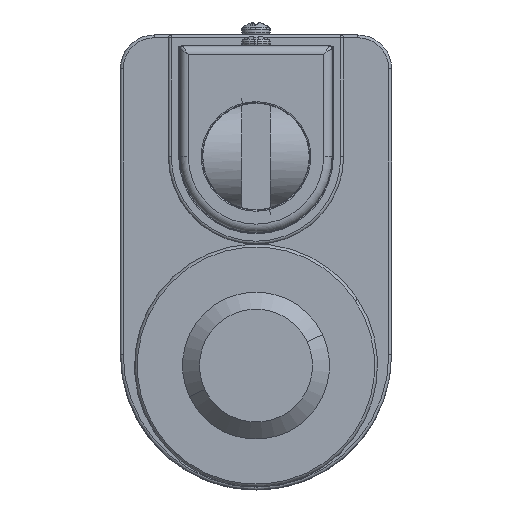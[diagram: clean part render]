
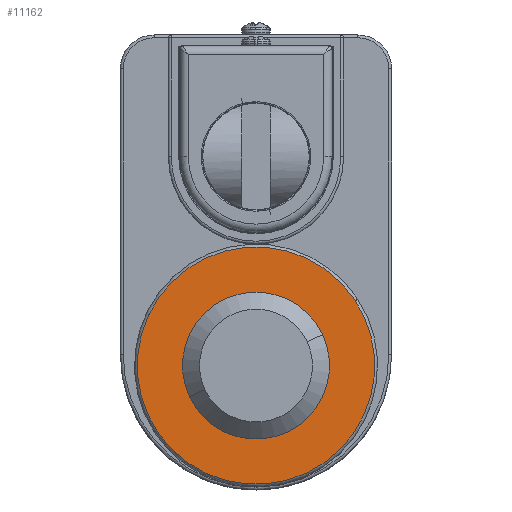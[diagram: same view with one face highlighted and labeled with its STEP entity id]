
A CAD part, left-side view. The second image highlights one B-rep face of the part: STEP entity #11162.
In plain terms, the highlighted planar face has unit normal (-1, 0, 0).
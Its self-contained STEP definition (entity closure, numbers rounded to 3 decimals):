
#11069 = EDGE_CURVE ( 'NONE', #11205, #11202, #14472, .T. ) ;
#11070 = ORIENTED_EDGE ( 'NONE', *, *, #11161, .T. ) ;
#11071 = ORIENTED_EDGE ( 'NONE', *, *, #11069, .F. ) ;
#11072 = ORIENTED_EDGE ( 'NONE', *, *, #11204, .F. ) ;
#11161 = EDGE_CURVE ( 'NONE', #11222, #11225, #14505, .T. ) ;
#11162 = ADVANCED_FACE ( 'NONE', ( #14500, #14499 ), #14498, .F. ) ;
#11163 = EDGE_LOOP ( 'NONE', ( #11164, #11070 ) ) ;
#11164 = ORIENTED_EDGE ( 'NONE', *, *, #11224, .T. ) ;
#11165 = EDGE_LOOP ( 'NONE', ( #11071, #11072 ) ) ;
#11202 = VERTEX_POINT ( 'NONE', #14599 ) ;
#11204 = EDGE_CURVE ( 'NONE', #11202, #11205, #14598, .T. ) ;
#11205 = VERTEX_POINT ( 'NONE', #14593 ) ;
#11222 = VERTEX_POINT ( 'NONE', #14614 ) ;
#11224 = EDGE_CURVE ( 'NONE', #11225, #11222, #14613, .T. ) ;
#11225 = VERTEX_POINT ( 'NONE', #14608 ) ;
#14469 = DIRECTION ( 'NONE',  ( 0., 0.906, -0.423 ) ) ;
#14470 = DIRECTION ( 'NONE',  ( 1., 0., 0. ) ) ;
#14471 = AXIS2_PLACEMENT_3D ( 'NONE', #14477, #14470, #14469 ) ;
#14472 = CIRCLE ( 'NONE', #14471, 21. ) ;
#14477 = CARTESIAN_POINT ( 'NONE',  ( -82., 0., -37. ) ) ;
#14494 = DIRECTION ( 'NONE',  ( 0., 0.906, -0.423 ) ) ;
#14495 = DIRECTION ( 'NONE',  ( 1., 0., 0. ) ) ;
#14496 = CARTESIAN_POINT ( 'NONE',  ( -82., 0., -37. ) ) ;
#14497 = AXIS2_PLACEMENT_3D ( 'NONE', #14496, #14495, #14494 ) ;
#14498 = PLANE ( 'NONE',  #14497 ) ;
#14499 = FACE_OUTER_BOUND ( 'NONE', #11165, .T. ) ;
#14500 = FACE_BOUND ( 'NONE', #11163, .T. ) ;
#14501 = DIRECTION ( 'NONE',  ( 0., 0.906, -0.423 ) ) ;
#14502 = DIRECTION ( 'NONE',  ( 1., 0., 0. ) ) ;
#14503 = CARTESIAN_POINT ( 'NONE',  ( -82., 0., -37. ) ) ;
#14504 = AXIS2_PLACEMENT_3D ( 'NONE', #14503, #14502, #14501 ) ;
#14505 = CIRCLE ( 'NONE', #14504, 13. ) ;
#14593 = CARTESIAN_POINT ( 'NONE',  ( -82., -19.032, -28.125 ) ) ;
#14594 = DIRECTION ( 'NONE',  ( 0., 0.906, -0.423 ) ) ;
#14595 = DIRECTION ( 'NONE',  ( 1., 0., 0. ) ) ;
#14596 = CARTESIAN_POINT ( 'NONE',  ( -82., 0., -37. ) ) ;
#14597 = AXIS2_PLACEMENT_3D ( 'NONE', #14596, #14595, #14594 ) ;
#14598 = CIRCLE ( 'NONE', #14597, 21. ) ;
#14599 = CARTESIAN_POINT ( 'NONE',  ( -82., 19.032, -45.875 ) ) ;
#14608 = CARTESIAN_POINT ( 'NONE',  ( -82., 11.782, -42.494 ) ) ;
#14609 = DIRECTION ( 'NONE',  ( 0., 0.906, -0.423 ) ) ;
#14610 = DIRECTION ( 'NONE',  ( 1., 0., 0. ) ) ;
#14611 = CARTESIAN_POINT ( 'NONE',  ( -82., 0., -37. ) ) ;
#14612 = AXIS2_PLACEMENT_3D ( 'NONE', #14611, #14610, #14609 ) ;
#14613 = CIRCLE ( 'NONE', #14612, 13. ) ;
#14614 = CARTESIAN_POINT ( 'NONE',  ( -82., -11.782, -31.506 ) ) ;
